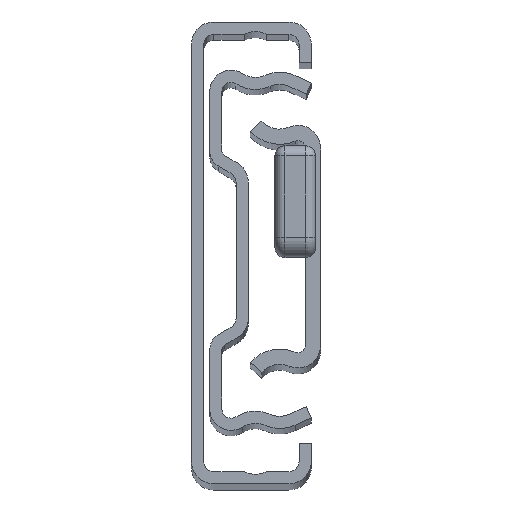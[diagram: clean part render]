
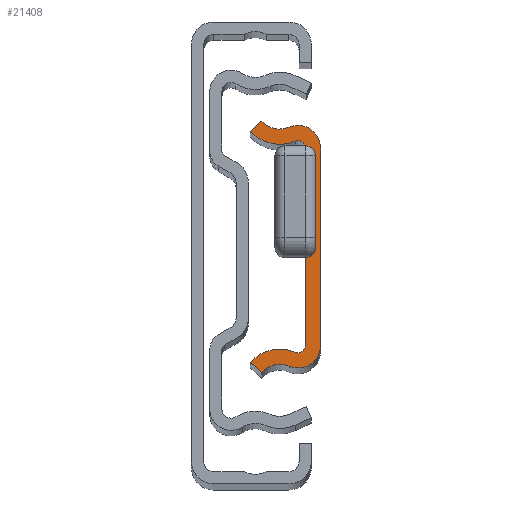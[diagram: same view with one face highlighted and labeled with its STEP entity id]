
A CAD part, top view. The second image highlights one B-rep face of the part: STEP entity #21408.
In plain terms, the highlighted planar face has unit normal (0, 0, 1).
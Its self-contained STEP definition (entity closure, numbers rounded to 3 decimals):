
#46 = CARTESIAN_POINT ( 'NONE',  ( -3.45, -11.377, 0. ) ) ;
#153 = ORIENTED_EDGE ( 'NONE', *, *, #10788, .T. ) ;
#232 = ORIENTED_EDGE ( 'NONE', *, *, #298, .T. ) ;
#298 = EDGE_CURVE ( 'NONE', #14419, #4132, #19196, .T. ) ;
#558 = LINE ( 'NONE', #11921, #20390 ) ;
#760 = PLANE ( 'NONE',  #23001 ) ;
#1378 = EDGE_CURVE ( 'NONE', #3245, #13653, #6605, .T. ) ;
#1485 = DIRECTION ( 'NONE',  ( 1., 0., 0. ) ) ;
#1687 = VERTEX_POINT ( 'NONE', #9932 ) ;
#2778 = EDGE_CURVE ( 'NONE', #10473, #8043, #22260, .T. ) ;
#2869 = CARTESIAN_POINT ( 'NONE',  ( 3.45, -9.725, 0. ) ) ;
#3245 = VERTEX_POINT ( 'NONE', #25499 ) ;
#3984 = DIRECTION ( 'NONE',  ( -0.745, -0.667, 0. ) ) ;
#4132 = VERTEX_POINT ( 'NONE', #13916 ) ;
#4453 = AXIS2_PLACEMENT_3D ( 'NONE', #19389, #25777, #6142 ) ;
#4586 = CARTESIAN_POINT ( 'NONE',  ( 1.95, -9.725, 0. ) ) ;
#4607 = VERTEX_POINT ( 'NONE', #13581 ) ;
#4812 = DIRECTION ( 'NONE',  ( 0., 0., 1. ) ) ;
#5027 = ORIENTED_EDGE ( 'NONE', *, *, #2778, .T. ) ;
#5300 = DIRECTION ( 'NONE',  ( 0., 0., 1. ) ) ;
#5477 = VECTOR ( 'NONE', #23368, 1000. ) ;
#5613 = EDGE_CURVE ( 'NONE', #24530, #14419, #13619, .T. ) ;
#6142 = DIRECTION ( 'NONE',  ( 1., 0., 0. ) ) ;
#6165 = AXIS2_PLACEMENT_3D ( 'NONE', #25130, #14158, #14537 ) ;
#6192 = EDGE_CURVE ( 'NONE', #15452, #10473, #11539, .T. ) ;
#6605 = CIRCLE ( 'NONE', #4453, 2.38 ) ;
#6610 = VERTEX_POINT ( 'NONE', #19934 ) ;
#7196 = DIRECTION ( 'NONE',  ( 1., 0., 0. ) ) ;
#7680 = CARTESIAN_POINT ( 'NONE',  ( 1.224, -9.725, 0. ) ) ;
#7698 = CARTESIAN_POINT ( 'NONE',  ( -0.564, 13.97, 0. ) ) ;
#7873 = DIRECTION ( 'NONE',  ( 0., 0., 1. ) ) ;
#8043 = VERTEX_POINT ( 'NONE', #46 ) ;
#8136 = DIRECTION ( 'NONE',  ( 0.745, -0.667, 0. ) ) ;
#8420 = DIRECTION ( 'NONE',  ( 0., 0., -1. ) ) ;
#8501 = ORIENTED_EDGE ( 'NONE', *, *, #16076, .T. ) ;
#8896 = CARTESIAN_POINT ( 'NONE',  ( -0.564, -13.97, 0. ) ) ;
#8906 = AXIS2_PLACEMENT_3D ( 'NONE', #7680, #7873, #1485 ) ;
#9789 = AXIS2_PLACEMENT_3D ( 'NONE', #18461, #11981, #25594 ) ;
#9932 = CARTESIAN_POINT ( 'NONE',  ( 0.36, 11.777, 0. ) ) ;
#9947 = ORIENTED_EDGE ( 'NONE', *, *, #1378, .T. ) ;
#10459 = DIRECTION ( 'NONE',  ( 0., 0., -1. ) ) ;
#10473 = VERTEX_POINT ( 'NONE', #23548 ) ;
#10484 = CARTESIAN_POINT ( 'NONE',  ( 1.95, -9.725, 0. ) ) ;
#10788 = EDGE_CURVE ( 'NONE', #22948, #4607, #558, .T. ) ;
#10825 = ORIENTED_EDGE ( 'NONE', *, *, #12851, .T. ) ;
#11320 = LINE ( 'NONE', #10484, #5477 ) ;
#11539 = CIRCLE ( 'NONE', #16857, 0.726 ) ;
#11802 = CIRCLE ( 'NONE', #8906, 2.226 ) ;
#11921 = CARTESIAN_POINT ( 'NONE',  ( 3.45, -9.725, 0. ) ) ;
#11981 = DIRECTION ( 'NONE',  ( 0., 0., -1. ) ) ;
#12019 = DIRECTION ( 'NONE',  ( 0., 1., 0. ) ) ;
#12702 = LINE ( 'NONE', #27783, #13708 ) ;
#12851 = EDGE_CURVE ( 'NONE', #13653, #22948, #11802, .T. ) ;
#12937 = ORIENTED_EDGE ( 'NONE', *, *, #17067, .T. ) ;
#13581 = CARTESIAN_POINT ( 'NONE',  ( 3.45, 9.725, 0. ) ) ;
#13619 = CIRCLE ( 'NONE', #19057, 3.88 ) ;
#13653 = VERTEX_POINT ( 'NONE', #22674 ) ;
#13708 = VECTOR ( 'NONE', #8136, 1000. ) ;
#13916 = CARTESIAN_POINT ( 'NONE',  ( 1.95, 9.725, 0. ) ) ;
#14158 = DIRECTION ( 'NONE',  ( 0., 0., 1. ) ) ;
#14419 = VERTEX_POINT ( 'NONE', #27081 ) ;
#14537 = DIRECTION ( 'NONE',  ( -1., 0., 0. ) ) ;
#14889 = CARTESIAN_POINT ( 'NONE',  ( -3.45, 11.377, 0. ) ) ;
#14968 = LINE ( 'NONE', #14889, #26605 ) ;
#14980 = ORIENTED_EDGE ( 'NONE', *, *, #16831, .T. ) ;
#15452 = VERTEX_POINT ( 'NONE', #4586 ) ;
#16076 = EDGE_CURVE ( 'NONE', #8043, #3245, #12702, .T. ) ;
#16244 = ORIENTED_EDGE ( 'NONE', *, *, #25540, .T. ) ;
#16831 = EDGE_CURVE ( 'NONE', #4607, #1687, #22480, .T. ) ;
#16857 = AXIS2_PLACEMENT_3D ( 'NONE', #21523, #8420, #21155 ) ;
#16954 = AXIS2_PLACEMENT_3D ( 'NONE', #8896, #25141, #26910 ) ;
#17007 = DIRECTION ( 'NONE',  ( -1., 0., 0. ) ) ;
#17067 = EDGE_CURVE ( 'NONE', #1687, #6610, #21402, .T. ) ;
#18461 = CARTESIAN_POINT ( 'NONE',  ( 1.224, 9.725, 0. ) ) ;
#19057 = AXIS2_PLACEMENT_3D ( 'NONE', #7698, #5300, #20634 ) ;
#19123 = ORIENTED_EDGE ( 'NONE', *, *, #6192, .T. ) ;
#19196 = CIRCLE ( 'NONE', #9789, 0.726 ) ;
#19389 = CARTESIAN_POINT ( 'NONE',  ( -0.564, -13.97, 0. ) ) ;
#19934 = CARTESIAN_POINT ( 'NONE',  ( -2.333, 12.378, 0. ) ) ;
#20022 = EDGE_CURVE ( 'NONE', #6610, #24530, #14968, .T. ) ;
#20390 = VECTOR ( 'NONE', #12019, 1000. ) ;
#20634 = DIRECTION ( 'NONE',  ( -1., 0., 0. ) ) ;
#21155 = DIRECTION ( 'NONE',  ( 1., 0., 0. ) ) ;
#21402 = CIRCLE ( 'NONE', #26339, 2.38 ) ;
#21408 = ADVANCED_FACE ( 'Face2', ( #24186 ), #760, .T. ) ;
#21523 = CARTESIAN_POINT ( 'NONE',  ( 1.224, -9.725, 0. ) ) ;
#21914 = CARTESIAN_POINT ( 'NONE',  ( -3.45, 11.377, 0. ) ) ;
#22260 = CIRCLE ( 'NONE', #16954, 3.88 ) ;
#22448 = CARTESIAN_POINT ( 'NONE',  ( -0.564, -13.97, 0. ) ) ;
#22480 = CIRCLE ( 'NONE', #6165, 2.226 ) ;
#22674 = CARTESIAN_POINT ( 'NONE',  ( 0.36, -11.777, 0. ) ) ;
#22948 = VERTEX_POINT ( 'NONE', #2869 ) ;
#23001 = AXIS2_PLACEMENT_3D ( 'NONE', #22448, #4812, #7196 ) ;
#23368 = DIRECTION ( 'NONE',  ( 0., -1., 0. ) ) ;
#23548 = CARTESIAN_POINT ( 'NONE',  ( 0.942, -10.394, 0. ) ) ;
#23777 = ORIENTED_EDGE ( 'NONE', *, *, #5613, .T. ) ;
#24186 = FACE_OUTER_BOUND ( 'NONE', #28214, .T. ) ;
#24530 = VERTEX_POINT ( 'NONE', #21914 ) ;
#25130 = CARTESIAN_POINT ( 'NONE',  ( 1.224, 9.725, 0. ) ) ;
#25141 = DIRECTION ( 'NONE',  ( 0., 0., 1. ) ) ;
#25346 = CARTESIAN_POINT ( 'NONE',  ( -0.564, 13.97, 0. ) ) ;
#25499 = CARTESIAN_POINT ( 'NONE',  ( -2.333, -12.378, 0. ) ) ;
#25540 = EDGE_CURVE ( 'NONE', #4132, #15452, #11320, .T. ) ;
#25594 = DIRECTION ( 'NONE',  ( -1., 0., 0. ) ) ;
#25777 = DIRECTION ( 'NONE',  ( 0., 0., -1. ) ) ;
#26339 = AXIS2_PLACEMENT_3D ( 'NONE', #25346, #10459, #17007 ) ;
#26605 = VECTOR ( 'NONE', #3984, 1000. ) ;
#26910 = DIRECTION ( 'NONE',  ( 1., 0., 0. ) ) ;
#27081 = CARTESIAN_POINT ( 'NONE',  ( 0.942, 10.394, 0. ) ) ;
#27192 = ORIENTED_EDGE ( 'NONE', *, *, #20022, .T. ) ;
#27783 = CARTESIAN_POINT ( 'NONE',  ( -3.45, -11.377, 0. ) ) ;
#28214 = EDGE_LOOP ( 'NONE', ( #9947, #10825, #153, #14980, #12937, #27192, #23777, #232, #16244, #19123, #5027, #8501 ) ) ;
